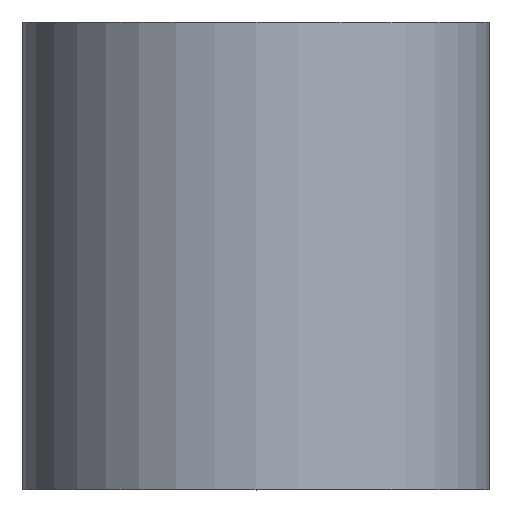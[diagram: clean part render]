
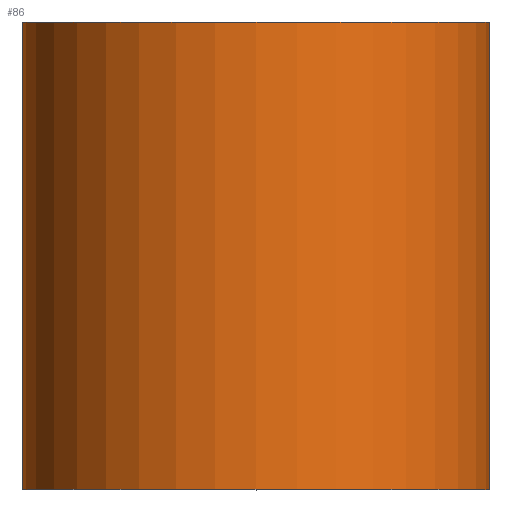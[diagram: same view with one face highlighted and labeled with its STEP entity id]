
A CAD part, top view. The second image highlights one B-rep face of the part: STEP entity #86.
In plain terms, the highlighted cylindrical face has radius 5 mm (diameter 10 mm), a partial arc.
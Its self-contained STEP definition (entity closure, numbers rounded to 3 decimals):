
#2 = LINE ( 'NONE', #175, #252 ) ;
#3 = CARTESIAN_POINT ( 'NONE',  ( 0., 0., 0. ) ) ;
#13 = ORIENTED_EDGE ( 'NONE', *, *, #261, .T. ) ;
#16 = ORIENTED_EDGE ( 'NONE', *, *, #130, .F. ) ;
#23 = CARTESIAN_POINT ( 'NONE',  ( 0., 10., 0. ) ) ;
#26 = CARTESIAN_POINT ( 'NONE',  ( -5., 0., 0. ) ) ;
#28 = DIRECTION ( 'NONE',  ( 0., 1., 0. ) ) ;
#49 = DIRECTION ( 'NONE',  ( -1., 0., 0. ) ) ;
#66 = AXIS2_PLACEMENT_3D ( 'NONE', #23, #208, #276 ) ;
#68 = CIRCLE ( 'NONE', #66, 5. ) ;
#72 = AXIS2_PLACEMENT_3D ( 'NONE', #3, #166, #49 ) ;
#73 = DIRECTION ( 'NONE',  ( 0., 1., 0. ) ) ;
#86 = ADVANCED_FACE ( 'NONE', ( #181 ), #279, .T. ) ;
#87 = EDGE_CURVE ( 'NONE', #147, #137, #170, .T. ) ;
#90 = ORIENTED_EDGE ( 'NONE', *, *, #87, .T. ) ;
#98 = CARTESIAN_POINT ( 'NONE',  ( 0., 0., 0. ) ) ;
#99 = CARTESIAN_POINT ( 'NONE',  ( 5., 10., 0. ) ) ;
#108 = EDGE_CURVE ( 'NONE', #147, #155, #131, .T. ) ;
#118 = CARTESIAN_POINT ( 'NONE',  ( -5., 10., 0. ) ) ;
#120 = DIRECTION ( 'NONE',  ( -1., 0., 0. ) ) ;
#130 = EDGE_CURVE ( 'NONE', #155, #176, #68, .T. ) ;
#131 = LINE ( 'NONE', #249, #288 ) ;
#137 = VERTEX_POINT ( 'NONE', #142 ) ;
#142 = CARTESIAN_POINT ( 'NONE',  ( 5., 0., 0. ) ) ;
#147 = VERTEX_POINT ( 'NONE', #26 ) ;
#155 = VERTEX_POINT ( 'NONE', #118 ) ;
#161 = EDGE_LOOP ( 'NONE', ( #90, #13, #16, #237 ) ) ;
#166 = DIRECTION ( 'NONE',  ( 0., 1., 0. ) ) ;
#170 = CIRCLE ( 'NONE', #183, 5. ) ;
#175 = CARTESIAN_POINT ( 'NONE',  ( 5., 0., 0. ) ) ;
#176 = VERTEX_POINT ( 'NONE', #99 ) ;
#181 = FACE_OUTER_BOUND ( 'NONE', #161, .T. ) ;
#183 = AXIS2_PLACEMENT_3D ( 'NONE', #98, #73, #120 ) ;
#208 = DIRECTION ( 'NONE',  ( 0., 1., 0. ) ) ;
#237 = ORIENTED_EDGE ( 'NONE', *, *, #108, .F. ) ;
#249 = CARTESIAN_POINT ( 'NONE',  ( -5., 0., 0. ) ) ;
#252 = VECTOR ( 'NONE', #28, 1000. ) ;
#261 = EDGE_CURVE ( 'NONE', #137, #176, #2, .T. ) ;
#276 = DIRECTION ( 'NONE',  ( -1., 0., 0. ) ) ;
#279 = CYLINDRICAL_SURFACE ( 'NONE', #72, 5. ) ;
#288 = VECTOR ( 'NONE', #298, 1000. ) ;
#298 = DIRECTION ( 'NONE',  ( 0., 1., 0. ) ) ;
